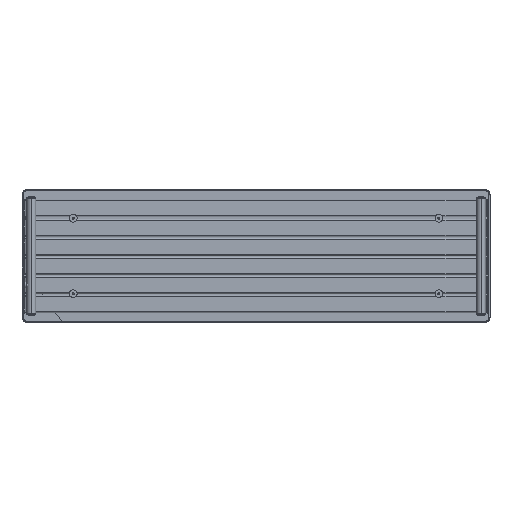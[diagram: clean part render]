
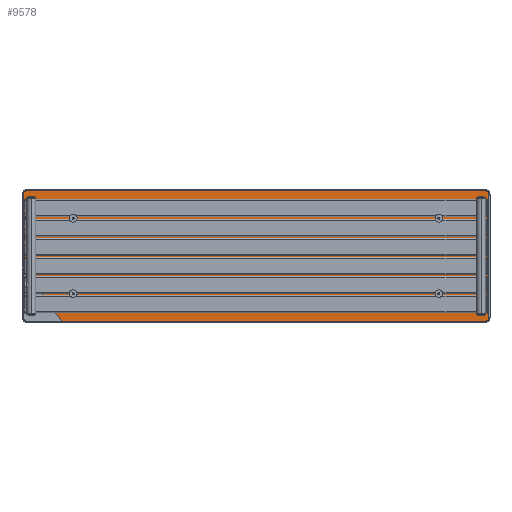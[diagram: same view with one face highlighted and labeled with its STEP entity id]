
A CAD part, left-side view. The second image highlights one B-rep face of the part: STEP entity #9578.
In plain terms, the highlighted planar face has unit normal (-1, 0, 0) as drawn and (0, 0, -1) by its records, which use the part's own axes.
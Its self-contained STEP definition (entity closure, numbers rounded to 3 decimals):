
#26 = CARTESIAN_POINT ( 'NONE',  ( 53.015, 911., 42. ) ) ;
#149 = CARTESIAN_POINT ( 'NONE',  ( -240., -895., 42. ) ) ;
#239 = DIRECTION ( 'NONE',  ( -1., 0., 0. ) ) ;
#259 = CARTESIAN_POINT ( 'NONE',  ( -240., -911., 42. ) ) ;
#392 = LINE ( 'NONE', #19478, #12134 ) ;
#595 = DIRECTION ( 'NONE',  ( 1., 0., 0. ) ) ;
#626 = VERTEX_POINT ( 'NONE', #14265 ) ;
#719 = VERTEX_POINT ( 'NONE', #18168 ) ;
#758 = EDGE_CURVE ( 'NONE', #16395, #15868, #14940, .T. ) ;
#876 = AXIS2_PLACEMENT_3D ( 'NONE', #6583, #7822, #16431 ) ;
#989 = VECTOR ( 'NONE', #8746, 1000. ) ;
#1967 = VERTEX_POINT ( 'NONE', #3843 ) ;
#2202 = CIRCLE ( 'NONE', #2908, 16. ) ;
#2209 = CARTESIAN_POINT ( 'NONE',  ( -240., -911., 42. ) ) ;
#2283 = CARTESIAN_POINT ( 'NONE',  ( 240., -911., 42. ) ) ;
#2367 = ORIENTED_EDGE ( 'NONE', *, *, #5194, .F. ) ;
#2707 = LINE ( 'NONE', #4600, #7418 ) ;
#2908 = AXIS2_PLACEMENT_3D ( 'NONE', #21180, #21062, #10798 ) ;
#3485 = LINE ( 'NONE', #26, #989 ) ;
#3843 = CARTESIAN_POINT ( 'NONE',  ( -256., -895., 42. ) ) ;
#4600 = CARTESIAN_POINT ( 'NONE',  ( -240., 911., 42. ) ) ;
#4939 = EDGE_CURVE ( 'NONE', #6789, #15868, #3485, .T. ) ;
#5054 = ORIENTED_EDGE ( 'NONE', *, *, #17818, .F. ) ;
#5194 = EDGE_CURVE ( 'NONE', #6789, #719, #2707, .T. ) ;
#5455 = CARTESIAN_POINT ( 'NONE',  ( 53.015, 911., 42. ) ) ;
#5643 = DIRECTION ( 'NONE',  ( 0., -1., 0. ) ) ;
#6465 = ORIENTED_EDGE ( 'NONE', *, *, #18377, .F. ) ;
#6583 = CARTESIAN_POINT ( 'NONE',  ( -240., 895., 42. ) ) ;
#6685 = EDGE_CURVE ( 'NONE', #719, #626, #18007, .T. ) ;
#6789 = VERTEX_POINT ( 'NONE', #5455 ) ;
#7179 = ORIENTED_EDGE ( 'NONE', *, *, #758, .F. ) ;
#7397 = ORIENTED_EDGE ( 'NONE', *, *, #6685, .F. ) ;
#7418 = VECTOR ( 'NONE', #18017, 1000. ) ;
#7527 = AXIS2_PLACEMENT_3D ( 'NONE', #149, #8201, #21802 ) ;
#7822 = DIRECTION ( 'NONE',  ( 0., 0., 1. ) ) ;
#8201 = DIRECTION ( 'NONE',  ( 0., 0., 1. ) ) ;
#8714 = VECTOR ( 'NONE', #16509, 1000. ) ;
#8746 = DIRECTION ( 'NONE',  ( 0.8, -0.599, 0. ) ) ;
#9578 = ADVANCED_FACE ( 'NONE', ( #19210 ), #19428, .T. ) ;
#9669 = ORIENTED_EDGE ( 'NONE', *, *, #20425, .F. ) ;
#9674 = CARTESIAN_POINT ( 'NONE',  ( 256., -895., 42. ) ) ;
#9907 = ORIENTED_EDGE ( 'NONE', *, *, #19873, .F. ) ;
#9912 = ORIENTED_EDGE ( 'NONE', *, *, #4939, .T. ) ;
#10798 = DIRECTION ( 'NONE',  ( -1., 0., 0. ) ) ;
#12126 = EDGE_LOOP ( 'NONE', ( #2367, #9912, #7179, #9907, #9669, #6465, #5054, #7397 ) ) ;
#12134 = VECTOR ( 'NONE', #5643, 1000. ) ;
#12429 = LINE ( 'NONE', #259, #19684 ) ;
#13561 = AXIS2_PLACEMENT_3D ( 'NONE', #14199, #13983, #239 ) ;
#13983 = DIRECTION ( 'NONE',  ( 0., 0., -1. ) ) ;
#14199 = CARTESIAN_POINT ( 'NONE',  ( -240., -895., 42. ) ) ;
#14265 = CARTESIAN_POINT ( 'NONE',  ( -256., 895., 42. ) ) ;
#14647 = VERTEX_POINT ( 'NONE', #2283 ) ;
#14940 = LINE ( 'NONE', #9674, #8714 ) ;
#15024 = CARTESIAN_POINT ( 'NONE',  ( 256., 758.993, 42. ) ) ;
#15868 = VERTEX_POINT ( 'NONE', #15024 ) ;
#16395 = VERTEX_POINT ( 'NONE', #22061 ) ;
#16431 = DIRECTION ( 'NONE',  ( -1., 0., 0. ) ) ;
#16509 = DIRECTION ( 'NONE',  ( 0., 1., 0. ) ) ;
#17818 = EDGE_CURVE ( 'NONE', #626, #1967, #392, .T. ) ;
#18007 = CIRCLE ( 'NONE', #876, 16. ) ;
#18017 = DIRECTION ( 'NONE',  ( -1., 0., 0. ) ) ;
#18168 = CARTESIAN_POINT ( 'NONE',  ( -240., 911., 42. ) ) ;
#18377 = EDGE_CURVE ( 'NONE', #1967, #19267, #19993, .T. ) ;
#19210 = FACE_OUTER_BOUND ( 'NONE', #12126, .T. ) ;
#19267 = VERTEX_POINT ( 'NONE', #2209 ) ;
#19428 = PLANE ( 'NONE',  #13561 ) ;
#19478 = CARTESIAN_POINT ( 'NONE',  ( -256., -895., 42. ) ) ;
#19684 = VECTOR ( 'NONE', #595, 1000. ) ;
#19873 = EDGE_CURVE ( 'NONE', #14647, #16395, #2202, .T. ) ;
#19993 = CIRCLE ( 'NONE', #7527, 16. ) ;
#20425 = EDGE_CURVE ( 'NONE', #19267, #14647, #12429, .T. ) ;
#21062 = DIRECTION ( 'NONE',  ( 0., 0., 1. ) ) ;
#21180 = CARTESIAN_POINT ( 'NONE',  ( 240., -895., 42. ) ) ;
#21802 = DIRECTION ( 'NONE',  ( -1., 0., 0. ) ) ;
#22061 = CARTESIAN_POINT ( 'NONE',  ( 256., -895., 42. ) ) ;
